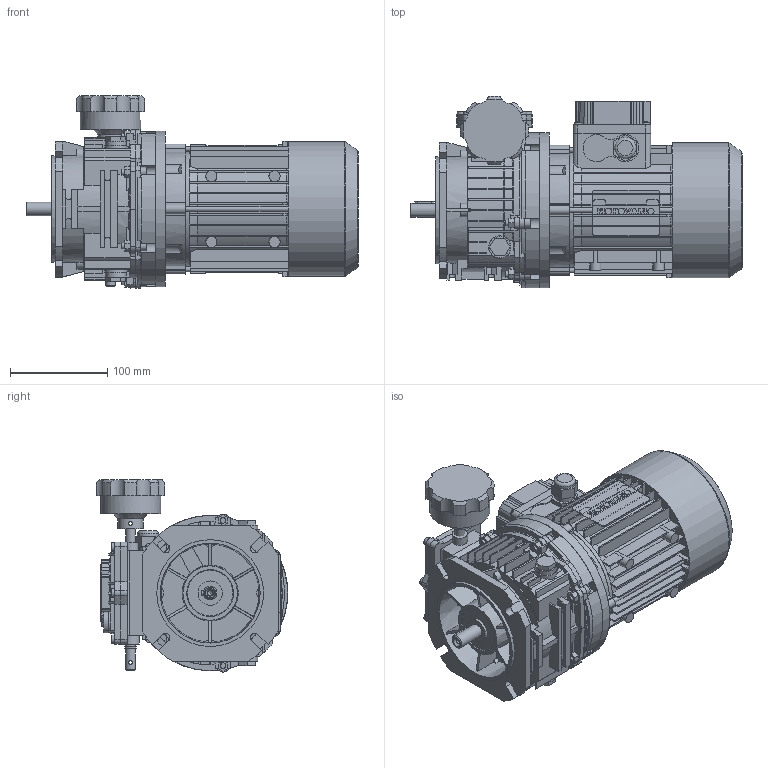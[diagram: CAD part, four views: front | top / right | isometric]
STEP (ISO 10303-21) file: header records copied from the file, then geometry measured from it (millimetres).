
FILE_DESCRIPTION(/* description */ ('STEP AP203'),/* implementation_level */ '2;1');
FILE_NAME(/* name */ 'TXF_005_160x14_14x30_CM_AD_1_T_071_IC411_B5_A002_STD_1',/* time_stamp */ '2026-07-02T11:21:57+02:00',/* author */ ('License CC BY-ND 4.0'),/* organization */ ('CADENAS'),/* preprocessor_version */ 'ST-DEVELOPER v20',/* originating_system */ 'PARTsolutions',/* authorisation */ ' ');
FILE_SCHEMA (('CONFIG_CONTROL_DESIGN'));
Products named in the file (15): TXF 005 160x14 14x30 CM AD 1 T 071 IC411 B5 A002 STD 1; TXF005160x1416014x30CMAD1-T071-IC411B5--A002STD1-d; Body-6005012-TXF; 600206; 600503160(160x14); 600517; FLANGIA_T071B5-; CARCASSA_T-071IC411B514X30NONO--; COPRIMORSETTIERA_T071A002; PRESSACAVO_2; COPRIVENTOLA_T_071_IC411_NO_-_-_-_-_STD; ALBERO_T07114X30NO; 600527142(14x30); 600233(005); 60029942(005)
Assembly tree (14 placements, depth 2):
  TXF 005 160x14 14x30 CM AD 1 T 071 IC411 B5 A002 STD 1
    TXF005160x1416014x30CMAD1-T071-IC411B5--A002STD1-d
    Body-6005012-TXF
    600206
    600503160(160x14)
    600517
    FLANGIA_T071B5-
    CARCASSA_T-071IC411B514X30NONO--
    COPRIMORSETTIERA_T071A002
    PRESSACAVO_2
    COPRIVENTOLA_T_071_IC411_NO_-_-_-_-_STD
    ALBERO_T07114X30NO
    600527142(14x30)
    600233(005)
    60029942(005)
Bounding box: 342 x 197.44 x 197.84 mm (x, y, z)
Volume: 4844454 mm3; surface area: 554060.2 mm2
Topology: 13 solids, 13 shells, 2586 faces, 7223 edges, 4801 vertices
Faces by surface type: plane 1480, cylinder 988, cone 110, torus 4, sphere 4
Full cylindrical faces by diameter (mm): 1.8 x1, 2.02 x1, 4 x3, 4.134 x1, 4.917 x1, 5 x4, 5.3 x1, 6 x6, 6.4 x1, 6.647 x4, 8 x4, 8.5 x6, 9.5 x4, 10 x9, 11.5 x4, 12 x2, 14 x2, 15 x1, 16 x1, 18 x1, 20 x2, 21.9 x1, 22 x3, 23 x2, 25 x2, 26 x2, 31 x1, 33 x1, 62 x1, 108 x1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
Entity records: 83522 total; most frequent: CARTESIAN_POINT 15721, DIRECTION 14272, ORIENTED_EDGE 14152, EDGE_CURVE 7076, AXIS2_PLACEMENT_3D 4973, VERTEX_POINT 4766, LINE 4326, VECTOR 4326
